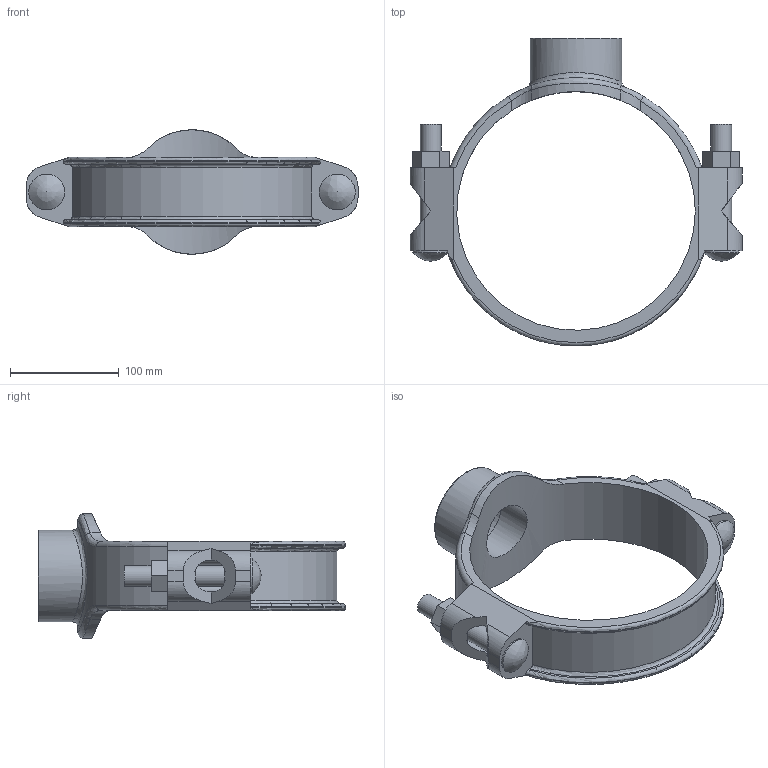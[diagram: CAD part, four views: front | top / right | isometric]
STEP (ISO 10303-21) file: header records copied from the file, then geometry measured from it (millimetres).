
FILE_DESCRIPTION(/* description */ ('VIC SS MECHANICAL T BRANCH OUTLET STYLE 422 (FPT)','CAx-IF Rec.Pracs.---Representation and Presentation of Product Manufacturing Information (PMI)---4.0---2014-10-13'),/* implementation_level */ '2;1');
FILE_NAME(/* name */ 'C:\Files for Export\422\STEP\Victaulic_SS-OGS_Mech-Tee Out_Style 422 (FPT)\Victaulic_SS-OGS_Mech-Tee Out_Style 422 (FPT)_08.0x02.0 (200x50).stp',/* time_stamp */ '2023-03-28T14:29:38+02:00',/* author */ ('jheald'),/* organization */ ('Victaulic'),/* preprocessor_version */ 'ST-DEVELOPER v18.1',/* originating_system */ 'Autodesk Inventor 2020',/* authorisation */ '');
FILE_SCHEMA (('AP242_MANAGED_MODEL_BASED_3D_ENGINEERING_MIM_LF { 1 0 10303 442 1 1 4 }'));
Length unit declared in the file: inch
Products named in the file (1): 422-08.0x02.0
Bounding box: 304.8 x 282.56 x 114.3 mm (x, y, z)
Volume: 838093.8 mm3; surface area: 173800.5 mm2
Topology: 1 solids, 1 shells, 100 faces, 290 edges, 192 vertices
Faces by surface type: plane 48, cylinder 32, torus 11, bspline 9
Full cylindrical faces by diameter (mm): 19.05 x4, 33.02 x2, 52.387 x1, 60.325 x1, 84.074 x1, 219.075 x1
Entity records: 4364 total; most frequent: CARTESIAN_POINT 1504, ORIENTED_EDGE 576, DIRECTION 558, EDGE_CURVE 288, AXIS2_PLACEMENT_3D 206, VERTEX_POINT 192, LINE 146, VECTOR 146
